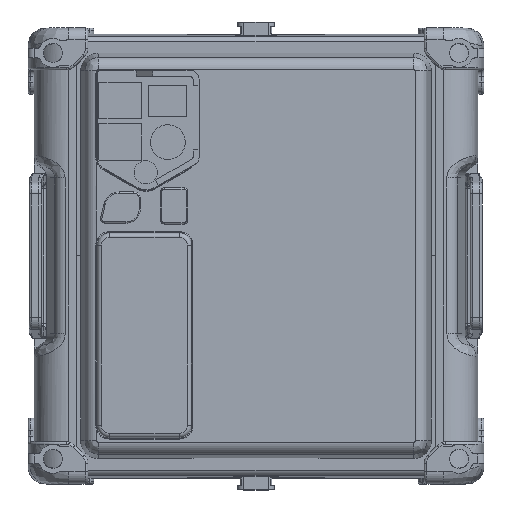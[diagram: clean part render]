
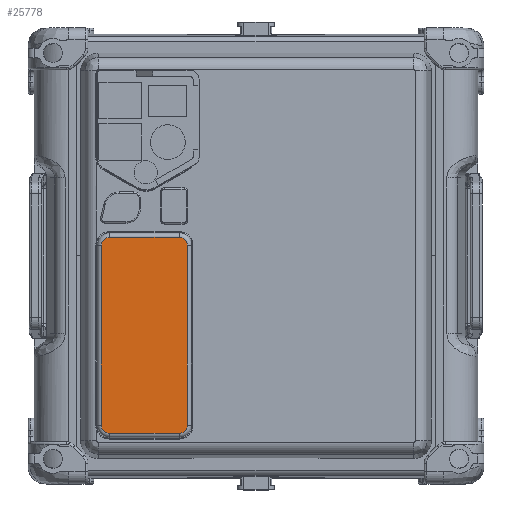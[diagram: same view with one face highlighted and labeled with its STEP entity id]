
A CAD part, top view. The second image highlights one B-rep face of the part: STEP entity #25778.
In plain terms, the highlighted planar face has unit normal (0, 0, 1).
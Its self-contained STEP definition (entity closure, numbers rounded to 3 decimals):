
#8316=CARTESIAN_POINT('',(-122.,-141.25,90.5));
#8317=DIRECTION('',(0.,0.,-1.));
#8318=DIRECTION('',(0.,-1.,0.));
#8319=AXIS2_PLACEMENT_3D('',#8316,#8317,#8318);
#8321=CARTESIAN_POINT('',(-122.,8.75,90.5));
#8322=DIRECTION('',(0.,0.,-1.));
#8323=DIRECTION('',(-1.,0.,0.));
#8324=AXIS2_PLACEMENT_3D('',#8321,#8322,#8323);
#8326=CARTESIAN_POINT('',(-64.,8.75,90.5));
#8327=DIRECTION('',(0.,0.,-1.));
#8328=DIRECTION('',(0.,1.,0.));
#8329=AXIS2_PLACEMENT_3D('',#8326,#8327,#8328);
#8331=CARTESIAN_POINT('',(-64.,-141.25,90.5));
#8332=DIRECTION('',(0.,0.,-1.));
#8333=DIRECTION('',(1.,0.,0.));
#8334=AXIS2_PLACEMENT_3D('',#8331,#8332,#8333);
#8351=DIRECTION('',(1.,0.,0.));
#8352=VECTOR('',#8351,58.);
#8353=CARTESIAN_POINT('',(-122.,-148.035,90.5));
#8354=LINE('',#8353,#8352);
#8374=DIRECTION('',(0.,1.,0.));
#8375=VECTOR('',#8374,150.);
#8376=CARTESIAN_POINT('',(-57.215,-141.25,90.5));
#8377=LINE('',#8376,#8375);
#8397=DIRECTION('',(-1.,0.,0.));
#8398=VECTOR('',#8397,58.);
#8399=CARTESIAN_POINT('',(-64.,15.535,90.5));
#8400=LINE('',#8399,#8398);
#8449=DIRECTION('',(0.,-1.,0.));
#8450=VECTOR('',#8449,150.);
#8451=CARTESIAN_POINT('',(-128.785,8.75,90.5));
#8452=LINE('',#8451,#8450);
#12698=CARTESIAN_POINT('',(-128.785,8.75,
90.5));
#12699=CARTESIAN_POINT('',(-122.,15.535,90.5));
#12700=VERTEX_POINT('',#12698);
#12701=VERTEX_POINT('',#12699);
#12702=CARTESIAN_POINT('',(-122.,-148.035,
90.5));
#12703=CARTESIAN_POINT('',(-128.785,-141.25,
90.5));
#12704=VERTEX_POINT('',#12702);
#12705=VERTEX_POINT('',#12703);
#12706=CARTESIAN_POINT('',(-64.,15.535,
90.5));
#12707=VERTEX_POINT('',#12706);
#12708=CARTESIAN_POINT('',(-57.215,8.75,
90.5));
#12709=VERTEX_POINT('',#12708);
#12710=CARTESIAN_POINT('',(-57.215,-141.25,90.5));
#12711=VERTEX_POINT('',#12710);
#12712=CARTESIAN_POINT('',(-64.,-148.035,
90.5));
#12713=VERTEX_POINT('',#12712);
#25756=CARTESIAN_POINT('',(0.,0.,90.5));
#25757=DIRECTION('',(0.,0.,1.));
#25758=DIRECTION('',(0.,-1.,0.));
#25759=AXIS2_PLACEMENT_3D('',#25756,#25757,#25758);
#25760=PLANE('',#25759);
#25762=ORIENTED_EDGE('',*,*,#25761,.T.);
#25764=ORIENTED_EDGE('',*,*,#25763,.F.);
#25765=ORIENTED_EDGE('',*,*,#25746,.T.);
#25767=ORIENTED_EDGE('',*,*,#25766,.F.);
#25769=ORIENTED_EDGE('',*,*,#25768,.T.);
#25771=ORIENTED_EDGE('',*,*,#25770,.F.);
#25773=ORIENTED_EDGE('',*,*,#25772,.T.);
#25775=ORIENTED_EDGE('',*,*,#25774,.F.);
#25776=EDGE_LOOP('',(#25762,#25764,#25765,#25767,#25769,#25771,#25773,#25775));
#25777=FACE_OUTER_BOUND('',#25776,.F.);
#25778=ADVANCED_FACE('',(#25777),#25760,.T.);
#8320=CIRCLE('',#8319,6.785);
#8325=CIRCLE('',#8324,6.785);
#8330=CIRCLE('',#8329,6.785);
#8335=CIRCLE('',#8334,6.785);
#25746=EDGE_CURVE('',#12700,#12701,#8325,.T.);
#25761=EDGE_CURVE('',#12704,#12705,#8320,.T.);
#25763=EDGE_CURVE('',#12700,#12705,#8452,.T.);
#25766=EDGE_CURVE('',#12707,#12701,#8400,.T.);
#25768=EDGE_CURVE('',#12707,#12709,#8330,.T.);
#25770=EDGE_CURVE('',#12711,#12709,#8377,.T.);
#25772=EDGE_CURVE('',#12711,#12713,#8335,.T.);
#25774=EDGE_CURVE('',#12704,#12713,#8354,.T.);
